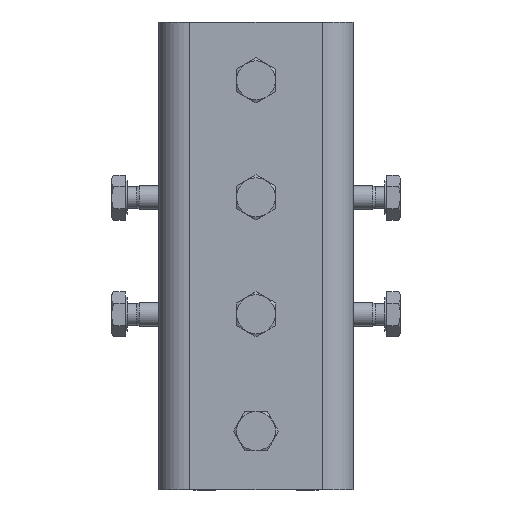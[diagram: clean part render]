
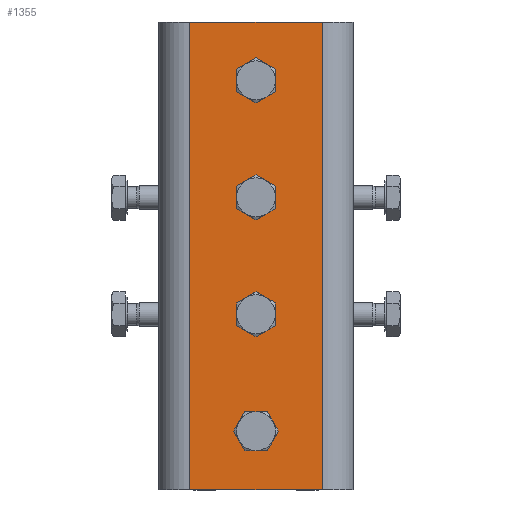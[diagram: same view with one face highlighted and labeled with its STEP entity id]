
A CAD part, top view. The second image highlights one B-rep face of the part: STEP entity #1355.
In plain terms, the highlighted planar face has unit normal (0, 0, 1).
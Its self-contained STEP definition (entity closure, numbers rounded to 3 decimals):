
#75=FACE_BOUND('',#245,.T.);
#76=FACE_BOUND('',#246,.T.);
#77=FACE_BOUND('',#247,.T.);
#78=FACE_BOUND('',#248,.T.);
#153=FACE_OUTER_BOUND('',#244,.T.);
#244=EDGE_LOOP('',(#953,#954,#955,#956));
#245=EDGE_LOOP('',(#957));
#246=EDGE_LOOP('',(#958));
#247=EDGE_LOOP('',(#959));
#248=EDGE_LOOP('',(#960));
#380=LINE('',#2083,#480);
#382=LINE('',#2087,#482);
#383=LINE('',#2089,#483);
#384=LINE('',#2090,#484);
#480=VECTOR('',#1640,120.);
#482=VECTOR('',#1644,34.);
#483=VECTOR('',#1645,120.);
#484=VECTOR('',#1646,34.);
#578=CIRCLE('',#1454,2.459);
#579=CIRCLE('',#1455,2.459);
#580=CIRCLE('',#1456,2.459);
#581=CIRCLE('',#1457,2.459);
#646=VERTEX_POINT('',#2067);
#649=VERTEX_POINT('',#2074);
#651=VERTEX_POINT('',#2086);
#652=VERTEX_POINT('',#2088);
#653=VERTEX_POINT('',#2091);
#654=VERTEX_POINT('',#2093);
#655=VERTEX_POINT('',#2095);
#656=VERTEX_POINT('',#2097);
#766=EDGE_CURVE('',#646,#649,#380,.T.);
#768=EDGE_CURVE('',#649,#651,#382,.T.);
#769=EDGE_CURVE('',#651,#652,#383,.T.);
#770=EDGE_CURVE('',#652,#646,#384,.T.);
#771=EDGE_CURVE('',#653,#653,#578,.T.);
#772=EDGE_CURVE('',#654,#654,#579,.T.);
#773=EDGE_CURVE('',#655,#655,#580,.T.);
#774=EDGE_CURVE('',#656,#656,#581,.T.);
#953=ORIENTED_EDGE('',*,*,#766,.T.);
#954=ORIENTED_EDGE('',*,*,#768,.T.);
#955=ORIENTED_EDGE('',*,*,#769,.T.);
#956=ORIENTED_EDGE('',*,*,#770,.T.);
#957=ORIENTED_EDGE('',*,*,#771,.T.);
#958=ORIENTED_EDGE('',*,*,#772,.T.);
#959=ORIENTED_EDGE('',*,*,#773,.T.);
#960=ORIENTED_EDGE('',*,*,#774,.T.);
#1301=PLANE('',#1453);
#1355=ADVANCED_FACE('',(#153,#75,#76,#77,#78),#1301,.T.);
#1453=AXIS2_PLACEMENT_3D('',#2085,#1642,#1643);
#1454=AXIS2_PLACEMENT_3D('',#2092,#1647,#1648);
#1455=AXIS2_PLACEMENT_3D('',#2094,#1649,#1650);
#1456=AXIS2_PLACEMENT_3D('',#2096,#1651,#1652);
#1457=AXIS2_PLACEMENT_3D('',#2098,#1653,#1654);
#1640=DIRECTION('',(0.,1.,0.));
#1642=DIRECTION('center_axis',(0.,0.,1.));
#1643=DIRECTION('ref_axis',(1.,0.,0.));
#1644=DIRECTION('',(-1.,0.,0.));
#1645=DIRECTION('',(0.,-1.,0.));
#1646=DIRECTION('',(1.,0.,0.));
#1647=DIRECTION('center_axis',(0.,0.,-1.));
#1648=DIRECTION('ref_axis',(1.,0.,0.));
#1649=DIRECTION('center_axis',(0.,0.,-1.));
#1650=DIRECTION('ref_axis',(1.,0.,0.));
#1651=DIRECTION('center_axis',(0.,0.,-1.));
#1652=DIRECTION('ref_axis',(1.,0.,0.));
#1653=DIRECTION('center_axis',(0.,0.,-1.));
#1654=DIRECTION('ref_axis',(1.,0.,0.));
#2067=CARTESIAN_POINT('',(17.,-60.,0.));
#2074=CARTESIAN_POINT('',(17.,60.,0.));
#2083=CARTESIAN_POINT('',(17.,30.,0.));
#2085=CARTESIAN_POINT('Origin',(64.938,0.,0.));
#2086=CARTESIAN_POINT('',(-17.,60.,0.));
#2087=CARTESIAN_POINT('',(67.679,60.,0.));
#2088=CARTESIAN_POINT('',(-17.,-60.,0.));
#2089=CARTESIAN_POINT('',(-17.,-30.,0.));
#2090=CARTESIAN_POINT('',(-67.679,-60.,0.));
#2091=CARTESIAN_POINT('',(2.458,45.,0.));
#2092=CARTESIAN_POINT('Origin',(0.,45.,0.));
#2093=CARTESIAN_POINT('',(2.459,-45.,0.));
#2094=CARTESIAN_POINT('Origin',(0.,-45.,0.));
#2095=CARTESIAN_POINT('',(2.459,15.,0.));
#2096=CARTESIAN_POINT('Origin',(0.,15.,0.));
#2097=CARTESIAN_POINT('',(2.459,-15.,0.));
#2098=CARTESIAN_POINT('Origin',(0.,-15.,0.));
